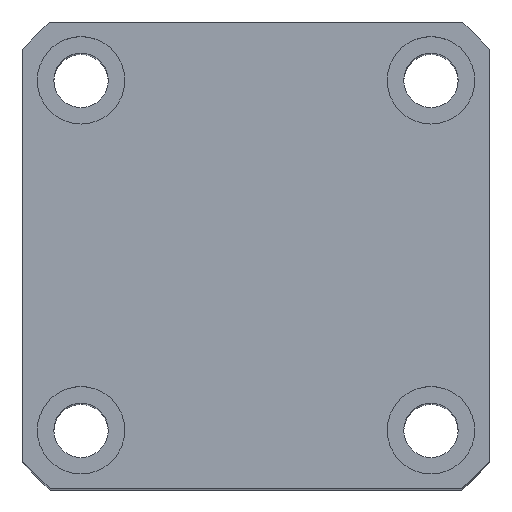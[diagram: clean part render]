
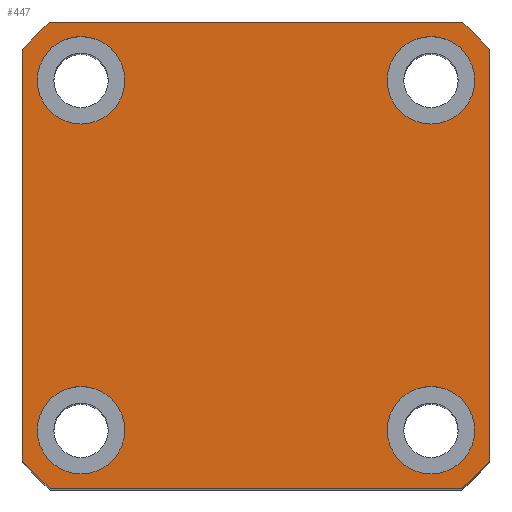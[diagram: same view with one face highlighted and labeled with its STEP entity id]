
A CAD part, top view. The second image highlights one B-rep face of the part: STEP entity #447.
In plain terms, the highlighted planar face has unit normal (0, 0, 1) as drawn and (1, 0, 0) by its records, which use the part's own axes.
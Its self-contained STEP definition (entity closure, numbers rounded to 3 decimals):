
#36 = CIRCLE ( 'NONE', #3030, 4.5 ) ;
#43 = CIRCLE ( 'NONE', #2109, 4.5 ) ;
#64 = ORIENTED_EDGE ( 'NONE', *, *, #4759, .F. ) ;
#183 = AXIS2_PLACEMENT_3D ( 'NONE', #2314, #6616, #2938 ) ;
#255 = CIRCLE ( 'NONE', #6484, 4.5 ) ;
#322 = VERTEX_POINT ( 'NONE', #1536 ) ;
#346 = CARTESIAN_POINT ( 'NONE',  ( 85., 18., -13.5 ) ) ;
#406 = DIRECTION ( 'NONE',  ( 0., -1., 0. ) ) ;
#431 = CIRCLE ( 'NONE', #6060, 32. ) ;
#439 = FACE_OUTER_BOUND ( 'NONE', #2398, .T. ) ;
#447 = ADVANCED_FACE ( 'NONE', ( #7170, #2106, #6993, #4505, #439 ), #1858, .T. ) ;
#459 = CARTESIAN_POINT ( 'NONE',  ( 85., 18., 22.5 ) ) ;
#504 = CARTESIAN_POINT ( 'NONE',  ( 85., -18., 18. ) ) ;
#519 = DIRECTION ( 'NONE',  ( 1., 0., 0. ) ) ;
#688 = CARTESIAN_POINT ( 'NONE',  ( 85., 0., 0. ) ) ;
#781 = ORIENTED_EDGE ( 'NONE', *, *, #7081, .T. ) ;
#797 = CARTESIAN_POINT ( 'NONE',  ( 85., -24., -21.166 ) ) ;
#801 = VERTEX_POINT ( 'NONE', #346 ) ;
#803 = LINE ( 'NONE', #7736, #7125 ) ;
#857 = CARTESIAN_POINT ( 'NONE',  ( 85., -21.166, 24. ) ) ;
#868 = VERTEX_POINT ( 'NONE', #1694 ) ;
#1039 = ORIENTED_EDGE ( 'NONE', *, *, #1613, .F. ) ;
#1087 = VERTEX_POINT ( 'NONE', #4418 ) ;
#1150 = DIRECTION ( 'NONE',  ( 0., 0., -1. ) ) ;
#1224 = CIRCLE ( 'NONE', #2351, 4.5 ) ;
#1235 = CARTESIAN_POINT ( 'NONE',  ( 85., 18., -22.5 ) ) ;
#1274 = DIRECTION ( 'NONE',  ( 1., 0., 0. ) ) ;
#1314 = CIRCLE ( 'NONE', #2020, 4.5 ) ;
#1317 = DIRECTION ( 'NONE',  ( 0., 0., -1. ) ) ;
#1321 = CARTESIAN_POINT ( 'NONE',  ( 85., 0., 0. ) ) ;
#1339 = CARTESIAN_POINT ( 'NONE',  ( 85., -24., 24. ) ) ;
#1489 = VERTEX_POINT ( 'NONE', #7302 ) ;
#1517 = LINE ( 'NONE', #4082, #2751 ) ;
#1536 = CARTESIAN_POINT ( 'NONE',  ( 85., -24., 21.166 ) ) ;
#1613 = EDGE_CURVE ( 'NONE', #801, #7049, #4582, .T. ) ;
#1667 = ORIENTED_EDGE ( 'NONE', *, *, #2502, .T. ) ;
#1694 = CARTESIAN_POINT ( 'NONE',  ( 85., 24., 21.166 ) ) ;
#1725 = EDGE_LOOP ( 'NONE', ( #2701, #3138 ) ) ;
#1728 = EDGE_LOOP ( 'NONE', ( #5954, #64 ) ) ;
#1750 = VERTEX_POINT ( 'NONE', #459 ) ;
#1776 = CARTESIAN_POINT ( 'NONE',  ( 85., 18., -18. ) ) ;
#1852 = CARTESIAN_POINT ( 'NONE',  ( 85., 24., -24. ) ) ;
#1856 = ORIENTED_EDGE ( 'NONE', *, *, #4096, .T. ) ;
#1858 = PLANE ( 'NONE',  #5072 ) ;
#1887 = DIRECTION ( 'NONE',  ( 1., 0., 0. ) ) ;
#1914 = DIRECTION ( 'NONE',  ( 0., 0., -1. ) ) ;
#1960 = EDGE_CURVE ( 'NONE', #3114, #1087, #3617, .T. ) ;
#1983 = ORIENTED_EDGE ( 'NONE', *, *, #3577, .F. ) ;
#2020 = AXIS2_PLACEMENT_3D ( 'NONE', #6995, #3335, #7619 ) ;
#2094 = CARTESIAN_POINT ( 'NONE',  ( 85., -21.166, -24. ) ) ;
#2106 = FACE_BOUND ( 'NONE', #1725, .T. ) ;
#2109 = AXIS2_PLACEMENT_3D ( 'NONE', #4947, #1274, #5560 ) ;
#2314 = CARTESIAN_POINT ( 'NONE',  ( 85., 0., 0. ) ) ;
#2336 = ORIENTED_EDGE ( 'NONE', *, *, #7811, .T. ) ;
#2351 = AXIS2_PLACEMENT_3D ( 'NONE', #504, #4809, #1150 ) ;
#2385 = DIRECTION ( 'NONE',  ( 0., 0., -1. ) ) ;
#2388 = ORIENTED_EDGE ( 'NONE', *, *, #2402, .F. ) ;
#2398 = EDGE_LOOP ( 'NONE', ( #781, #6442, #2336, #5223, #6488, #1856, #1667, #2997 ) ) ;
#2402 = EDGE_CURVE ( 'NONE', #4789, #1750, #5648, .T. ) ;
#2408 = DIRECTION ( 'NONE',  ( 1., 0., 0. ) ) ;
#2502 = EDGE_CURVE ( 'NONE', #322, #6740, #5262, .T. ) ;
#2557 = AXIS2_PLACEMENT_3D ( 'NONE', #6800, #6881, #6938 ) ;
#2627 = EDGE_CURVE ( 'NONE', #868, #3281, #4878, .T. ) ;
#2668 = DIRECTION ( 'NONE',  ( 1., 0., 0. ) ) ;
#2701 = ORIENTED_EDGE ( 'NONE', *, *, #4349, .F. ) ;
#2711 = DIRECTION ( 'NONE',  ( 0., 1., 0. ) ) ;
#2741 = DIRECTION ( 'NONE',  ( 0., 0., -1. ) ) ;
#2751 = VECTOR ( 'NONE', #406, 1000. ) ;
#2938 = DIRECTION ( 'NONE',  ( 0., 0., -1. ) ) ;
#2997 = ORIENTED_EDGE ( 'NONE', *, *, #5200, .T. ) ;
#3030 = AXIS2_PLACEMENT_3D ( 'NONE', #6354, #2668, #6946 ) ;
#3065 = CARTESIAN_POINT ( 'NONE',  ( 85., -18., -13.5 ) ) ;
#3114 = VERTEX_POINT ( 'NONE', #3379 ) ;
#3138 = ORIENTED_EDGE ( 'NONE', *, *, #3862, .F. ) ;
#3163 = CARTESIAN_POINT ( 'NONE',  ( 85., 18., 18. ) ) ;
#3194 = CARTESIAN_POINT ( 'NONE',  ( 85., -18., 13.5 ) ) ;
#3274 = VERTEX_POINT ( 'NONE', #6769 ) ;
#3281 = VERTEX_POINT ( 'NONE', #7379 ) ;
#3301 = EDGE_CURVE ( 'NONE', #1489, #5066, #43, .T. ) ;
#3310 = DIRECTION ( 'NONE',  ( 1., 0., 0. ) ) ;
#3335 = DIRECTION ( 'NONE',  ( 1., 0., 0. ) ) ;
#3350 = AXIS2_PLACEMENT_3D ( 'NONE', #4201, #519, #4826 ) ;
#3379 = CARTESIAN_POINT ( 'NONE',  ( 85., 21.166, -24. ) ) ;
#3577 = EDGE_CURVE ( 'NONE', #1750, #4789, #5430, .T. ) ;
#3617 = CIRCLE ( 'NONE', #2557, 32. ) ;
#3627 = VECTOR ( 'NONE', #2741, 1000. ) ;
#3723 = ORIENTED_EDGE ( 'NONE', *, *, #4186, .F. ) ;
#3770 = DIRECTION ( 'NONE',  ( 0., 0., -1. ) ) ;
#3862 = EDGE_CURVE ( 'NONE', #3274, #4665, #1224, .T. ) ;
#4082 = CARTESIAN_POINT ( 'NONE',  ( 85., 24., 24. ) ) ;
#4096 = EDGE_CURVE ( 'NONE', #4119, #322, #431, .T. ) ;
#4119 = VERTEX_POINT ( 'NONE', #857 ) ;
#4186 = EDGE_CURVE ( 'NONE', #7049, #801, #255, .T. ) ;
#4201 = CARTESIAN_POINT ( 'NONE',  ( 85., 18., 18. ) ) ;
#4210 = EDGE_LOOP ( 'NONE', ( #3723, #1039 ) ) ;
#4349 = EDGE_CURVE ( 'NONE', #4665, #3274, #36, .T. ) ;
#4418 = CARTESIAN_POINT ( 'NONE',  ( 85., 24., -21.166 ) ) ;
#4505 = FACE_BOUND ( 'NONE', #5577, .T. ) ;
#4552 = VECTOR ( 'NONE', #2711, 1000. ) ;
#4582 = CIRCLE ( 'NONE', #5186, 4.5 ) ;
#4665 = VERTEX_POINT ( 'NONE', #3194 ) ;
#4759 = EDGE_CURVE ( 'NONE', #5066, #1489, #1314, .T. ) ;
#4789 = VERTEX_POINT ( 'NONE', #5178 ) ;
#4809 = DIRECTION ( 'NONE',  ( 1., 0., 0. ) ) ;
#4826 = DIRECTION ( 'NONE',  ( 0., 0., -1. ) ) ;
#4878 = CIRCLE ( 'NONE', #183, 32. ) ;
#4947 = CARTESIAN_POINT ( 'NONE',  ( 85., -18., -18. ) ) ;
#4951 = CIRCLE ( 'NONE', #6401, 32. ) ;
#4990 = DIRECTION ( 'NONE',  ( 1., 0., 0. ) ) ;
#5066 = VERTEX_POINT ( 'NONE', #3065 ) ;
#5072 = AXIS2_PLACEMENT_3D ( 'NONE', #1321, #1887, #1914 ) ;
#5178 = CARTESIAN_POINT ( 'NONE',  ( 85., 18., 13.5 ) ) ;
#5186 = AXIS2_PLACEMENT_3D ( 'NONE', #6755, #2408, #7880 ) ;
#5200 = EDGE_CURVE ( 'NONE', #6740, #6854, #4951, .T. ) ;
#5223 = ORIENTED_EDGE ( 'NONE', *, *, #2627, .T. ) ;
#5262 = LINE ( 'NONE', #1339, #3627 ) ;
#5356 = EDGE_CURVE ( 'NONE', #3281, #4119, #1517, .T. ) ;
#5430 = CIRCLE ( 'NONE', #3350, 4.5 ) ;
#5560 = DIRECTION ( 'NONE',  ( 0., 0., -1. ) ) ;
#5577 = EDGE_LOOP ( 'NONE', ( #2388, #1983 ) ) ;
#5648 = CIRCLE ( 'NONE', #5692, 4.5 ) ;
#5692 = AXIS2_PLACEMENT_3D ( 'NONE', #3163, #7442, #3770 ) ;
#5928 = DIRECTION ( 'NONE',  ( 0., 0., 1. ) ) ;
#5954 = ORIENTED_EDGE ( 'NONE', *, *, #3301, .F. ) ;
#6060 = AXIS2_PLACEMENT_3D ( 'NONE', #6962, #3310, #7591 ) ;
#6066 = DIRECTION ( 'NONE',  ( 1., 0., 0. ) ) ;
#6354 = CARTESIAN_POINT ( 'NONE',  ( 85., -18., 18. ) ) ;
#6401 = AXIS2_PLACEMENT_3D ( 'NONE', #688, #4990, #1317 ) ;
#6442 = ORIENTED_EDGE ( 'NONE', *, *, #1960, .T. ) ;
#6484 = AXIS2_PLACEMENT_3D ( 'NONE', #1776, #6066, #2385 ) ;
#6488 = ORIENTED_EDGE ( 'NONE', *, *, #5356, .T. ) ;
#6616 = DIRECTION ( 'NONE',  ( 1., 0., 0. ) ) ;
#6740 = VERTEX_POINT ( 'NONE', #797 ) ;
#6755 = CARTESIAN_POINT ( 'NONE',  ( 85., 18., -18. ) ) ;
#6769 = CARTESIAN_POINT ( 'NONE',  ( 85., -18., 22.5 ) ) ;
#6800 = CARTESIAN_POINT ( 'NONE',  ( 85., 0., 0. ) ) ;
#6854 = VERTEX_POINT ( 'NONE', #2094 ) ;
#6881 = DIRECTION ( 'NONE',  ( 1., 0., 0. ) ) ;
#6938 = DIRECTION ( 'NONE',  ( 0., 0., -1. ) ) ;
#6946 = DIRECTION ( 'NONE',  ( 0., 0., -1. ) ) ;
#6962 = CARTESIAN_POINT ( 'NONE',  ( 85., 0., 0. ) ) ;
#6993 = FACE_BOUND ( 'NONE', #4210, .T. ) ;
#6995 = CARTESIAN_POINT ( 'NONE',  ( 85., -18., -18. ) ) ;
#7049 = VERTEX_POINT ( 'NONE', #1235 ) ;
#7081 = EDGE_CURVE ( 'NONE', #6854, #3114, #7810, .T. ) ;
#7125 = VECTOR ( 'NONE', #5928, 1000. ) ;
#7170 = FACE_BOUND ( 'NONE', #1728, .T. ) ;
#7302 = CARTESIAN_POINT ( 'NONE',  ( 85., -18., -22.5 ) ) ;
#7379 = CARTESIAN_POINT ( 'NONE',  ( 85., 21.166, 24. ) ) ;
#7442 = DIRECTION ( 'NONE',  ( 1., 0., 0. ) ) ;
#7591 = DIRECTION ( 'NONE',  ( 0., 0., -1. ) ) ;
#7619 = DIRECTION ( 'NONE',  ( 0., 0., -1. ) ) ;
#7736 = CARTESIAN_POINT ( 'NONE',  ( 85., 24., 24. ) ) ;
#7810 = LINE ( 'NONE', #1852, #4552 ) ;
#7811 = EDGE_CURVE ( 'NONE', #1087, #868, #803, .T. ) ;
#7880 = DIRECTION ( 'NONE',  ( 0., 0., -1. ) ) ;
